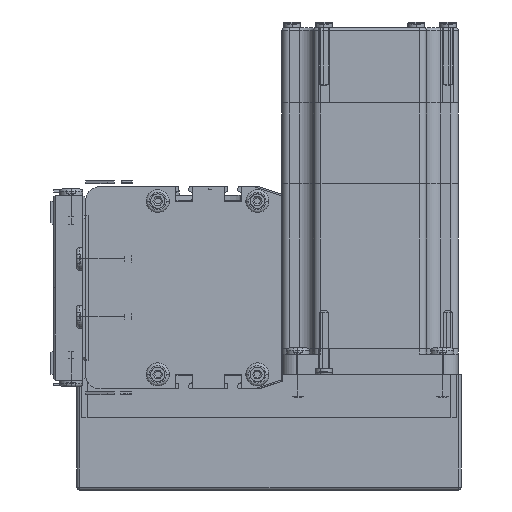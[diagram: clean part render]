
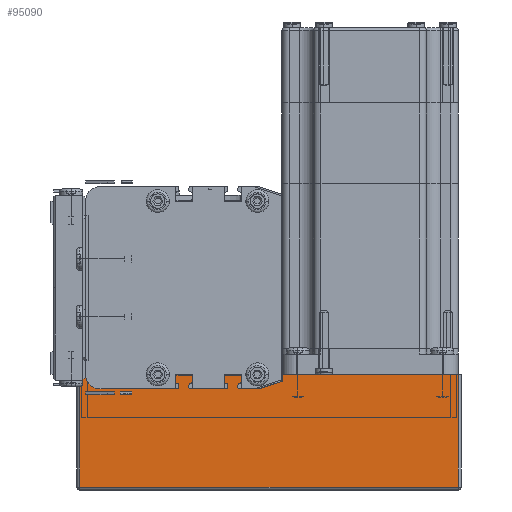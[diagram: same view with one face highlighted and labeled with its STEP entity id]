
A CAD part, left-side view. The second image highlights one B-rep face of the part: STEP entity #95090.
In plain terms, the highlighted planar face has unit normal (-1, 0, 0) as drawn and (0, 1, 0) by its records, which use the part's own axes.
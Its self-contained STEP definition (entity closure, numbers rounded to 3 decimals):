
#37593 = DIRECTION ( 'NONE',  ( 0., 0., -1. ) ) ;
#37594 = VECTOR ( 'NONE', #37593, 1000. ) ;
#38783 = CARTESIAN_POINT ( 'NONE',  ( 132., 62., 0. ) ) ;
#38797 = CARTESIAN_POINT ( 'NONE',  ( 0., 62., 0. ) ) ;
#38798 = LINE ( 'NONE', #38797, #38847 ) ;
#38804 = CARTESIAN_POINT ( 'NONE',  ( 1., 62., 0. ) ) ;
#38846 = DIRECTION ( 'NONE',  ( -1., 0., 0. ) ) ;
#38847 = VECTOR ( 'NONE', #38846, 1000. ) ;
#39000 = LINE ( 'NONE', #39057, #39056 ) ;
#39006 = CARTESIAN_POINT ( 'NONE',  ( 1., 62., 39. ) ) ;
#39014 = CARTESIAN_POINT ( 'NONE',  ( 132., 62., 39. ) ) ;
#39055 = DIRECTION ( 'NONE',  ( 0., 0., 1. ) ) ;
#39056 = VECTOR ( 'NONE', #39055, 1000. ) ;
#39057 = CARTESIAN_POINT ( 'NONE',  ( 1., 62., 40. ) ) ;
#39075 = AXIS2_PLACEMENT_3D ( 'NONE', #39135, #39127, #39112 ) ;
#39109 = CARTESIAN_POINT ( 'NONE',  ( 132., 62., 40. ) ) ;
#39110 = LINE ( 'NONE', #39109, #37594 ) ;
#39112 = DIRECTION ( 'NONE',  ( 0., 0., -1. ) ) ;
#39127 = DIRECTION ( 'NONE',  ( 0., -1., 0. ) ) ;
#39128 = FACE_OUTER_BOUND ( 'NONE', #95042, .T. ) ;
#39130 = PLANE ( 'NONE',  #39075 ) ;
#39135 = CARTESIAN_POINT ( 'NONE',  ( 0., 62., 40. ) ) ;
#39173 = DIRECTION ( 'NONE',  ( 1., 0., 0. ) ) ;
#39174 = VECTOR ( 'NONE', #39173, 1000. ) ;
#39175 = CARTESIAN_POINT ( 'NONE',  ( 0., 62., 39. ) ) ;
#39176 = LINE ( 'NONE', #39175, #39174 ) ;
#94913 = VERTEX_POINT ( 'NONE', #38783 ) ;
#94948 = VERTEX_POINT ( 'NONE', #38804 ) ;
#94959 = EDGE_CURVE ( 'NONE', #94913, #94948, #38798, .T. ) ;
#95027 = VERTEX_POINT ( 'NONE', #39014 ) ;
#95033 = VERTEX_POINT ( 'NONE', #39006 ) ;
#95039 = EDGE_CURVE ( 'NONE', #94948, #95033, #39000, .T. ) ;
#95042 = EDGE_LOOP ( 'NONE', ( #95060, #95092, #95098, #95103 ) ) ;
#95060 = ORIENTED_EDGE ( 'NONE', *, *, #95096, .T. ) ;
#95090 = ADVANCED_FACE ( 'NONE', ( #39128 ), #39130, .F. ) ;
#95092 = ORIENTED_EDGE ( 'NONE', *, *, #95094, .T. ) ;
#95094 = EDGE_CURVE ( 'NONE', #95027, #94913, #39110, .T. ) ;
#95096 = EDGE_CURVE ( 'NONE', #95033, #95027, #39176, .T. ) ;
#95098 = ORIENTED_EDGE ( 'NONE', *, *, #94959, .T. ) ;
#95103 = ORIENTED_EDGE ( 'NONE', *, *, #95039, .T. ) ;
